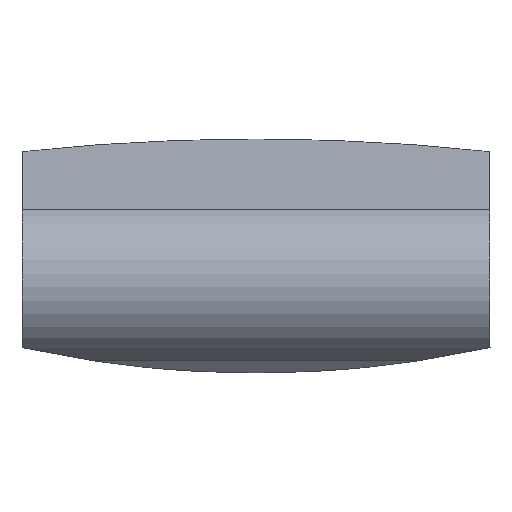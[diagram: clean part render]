
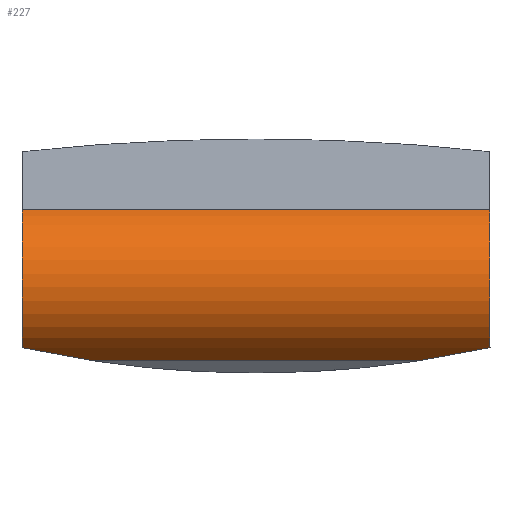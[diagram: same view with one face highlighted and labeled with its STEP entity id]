
A CAD part, front view. The second image highlights one B-rep face of the part: STEP entity #227.
In plain terms, the highlighted cylindrical face has radius 13 mm (diameter 26 mm), a partial arc.
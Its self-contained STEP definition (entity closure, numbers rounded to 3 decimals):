
#135 = VERTEX_POINT( '', #362 );
#159 = EDGE_CURVE( '', #217, #273, #389, .T. );
#203 = VERTEX_POINT( '', #434 );
#217 = VERTEX_POINT( '', #449 );
#227 = ADVANCED_FACE( '', ( #460 ), #461, .T. );
#231 = EDGE_CURVE( '', #135, #283, #466, .T. );
#235 = EDGE_CURVE( '', #303, #217, #470, .T. );
#273 = VERTEX_POINT( '', #514 );
#283 = VERTEX_POINT( '', #526 );
#287 = EDGE_CURVE( '', #303, #203, #530, .T. );
#299 = EDGE_CURVE( '', #273, #283, #542, .T. );
#303 = VERTEX_POINT( '', #546 );
#309 = EDGE_CURVE( '', #135, #203, #552, .T. );
#362 = CARTESIAN_POINT( '', ( 41.769, -23.825, -28.672 ) );
#389 = CIRCLE( '', #637, 13. );
#434 = CARTESIAN_POINT( '', ( 53., -27.307, -26.601 ) );
#449 = CARTESIAN_POINT( '', ( -21., -24.413, -4.781 ) );
#460 = FACE_OUTER_BOUND( '', #731, .T. );
#461 = CYLINDRICAL_SURFACE( '', #732, 13. );
#466 = LINE( '', #738, #739 );
#470 = LINE( '', #746, #747 );
#514 = CARTESIAN_POINT( '', ( -21., -27.307, -26.601 ) );
#526 = CARTESIAN_POINT( '', ( -9.769, -23.825, -28.672 ) );
#530 = CIRCLE( '', #826, 13. );
#542 = B_SPLINE_CURVE_WITH_KNOTS( '', 3, ( #844, #845, #846, #847, #848, #849, #850, #851 ), .UNSPECIFIED., .F., .F., ( 4, 2, 2, 4 ), ( 1.044, 4.129, 8.259, 12.141 ), .UNSPECIFIED. );
#546 = CARTESIAN_POINT( '', ( 53., -24.413, -4.781 ) );
#552 = B_SPLINE_CURVE_WITH_KNOTS( '', 3, ( #863, #864, #865, #866, #867, #868, #869, #870 ), .UNSPECIFIED., .F., .F., ( 4, 2, 2, 4 ), ( 29.444, 33.327, 37.456, 40.541 ), .UNSPECIFIED. );
#637 = AXIS2_PLACEMENT_3D( '', #960, #961, #962 );
#731 = EDGE_LOOP( '', ( #1014, #1015, #1016, #1017, #1018, #1019 ) );
#732 = AXIS2_PLACEMENT_3D( '', #1020, #1021, #1022 );
#738 = CARTESIAN_POINT( '', ( 53., -23.825, -28.672 ) );
#739 = VECTOR( '', #1031, 1. );
#746 = CARTESIAN_POINT( '', ( 53., -24.413, -4.781 ) );
#747 = VECTOR( '', #1033, 1. );
#826 = AXIS2_PLACEMENT_3D( '', #1125, #1126, #1127 );
#844 = CARTESIAN_POINT( '', ( -21., -27.307, -26.601 ) );
#845 = CARTESIAN_POINT( '', ( -20.005, -27.044, -26.818 ) );
#846 = CARTESIAN_POINT( '', ( -18.979, -26.764, -27.033 ) );
#847 = CARTESIAN_POINT( '', ( -16.543, -26.07, -27.52 ) );
#848 = CARTESIAN_POINT( '', ( -15.12, -25.644, -27.787 ) );
#849 = CARTESIAN_POINT( '', ( -12.375, -24.76, -28.265 ) );
#850 = CARTESIAN_POINT( '', ( -11.052, -24.308, -28.479 ) );
#851 = CARTESIAN_POINT( '', ( -9.769, -23.825, -28.672 ) );
#863 = CARTESIAN_POINT( '', ( 41.769, -23.825, -28.672 ) );
#864 = CARTESIAN_POINT( '', ( 43.052, -24.308, -28.479 ) );
#865 = CARTESIAN_POINT( '', ( 44.375, -24.76, -28.265 ) );
#866 = CARTESIAN_POINT( '', ( 47.12, -25.644, -27.787 ) );
#867 = CARTESIAN_POINT( '', ( 48.543, -26.07, -27.52 ) );
#868 = CARTESIAN_POINT( '', ( 50.979, -26.764, -27.033 ) );
#869 = CARTESIAN_POINT( '', ( 52.005, -27.044, -26.818 ) );
#870 = CARTESIAN_POINT( '', ( 53., -27.307, -26.601 ) );
#960 = CARTESIAN_POINT( '', ( -21., -19., -16.6 ) );
#961 = DIRECTION( '', ( 1., 0., 0. ) );
#962 = DIRECTION( '', ( 0., -0.416, 0.909 ) );
#1014 = ORIENTED_EDGE( '', *, *, #299, .T. );
#1015 = ORIENTED_EDGE( '', *, *, #231, .F. );
#1016 = ORIENTED_EDGE( '', *, *, #309, .T. );
#1017 = ORIENTED_EDGE( '', *, *, #287, .F. );
#1018 = ORIENTED_EDGE( '', *, *, #235, .T. );
#1019 = ORIENTED_EDGE( '', *, *, #159, .T. );
#1020 = CARTESIAN_POINT( '', ( 53., -19., -16.6 ) );
#1021 = DIRECTION( '', ( 1., 0., 0. ) );
#1022 = DIRECTION( '', ( 0., -0.416, 0.909 ) );
#1031 = DIRECTION( '', ( -1., 0., 0. ) );
#1033 = DIRECTION( '', ( -1., 0., 0. ) );
#1125 = CARTESIAN_POINT( '', ( 53., -19., -16.6 ) );
#1126 = DIRECTION( '', ( 1., 0., 0. ) );
#1127 = DIRECTION( '', ( 0., -0.416, 0.909 ) );
